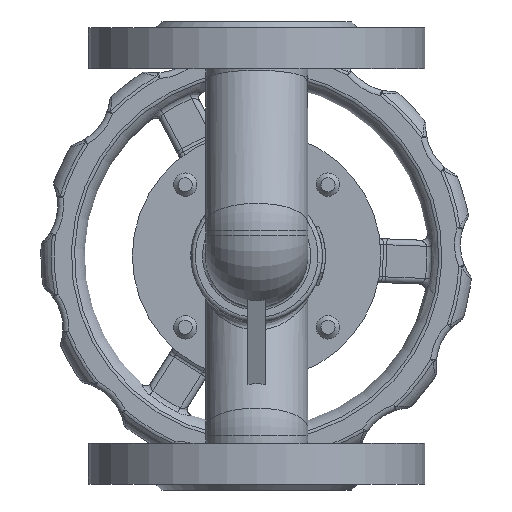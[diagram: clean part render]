
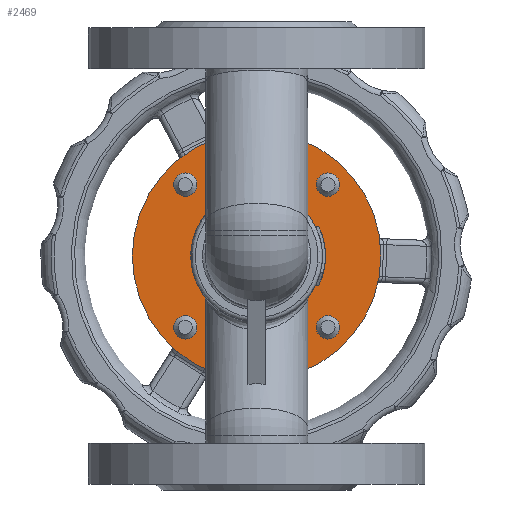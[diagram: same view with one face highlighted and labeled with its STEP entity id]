
A CAD part, front view. The second image highlights one B-rep face of the part: STEP entity #2469.
In plain terms, the highlighted planar face has unit normal (0, -1, 0).
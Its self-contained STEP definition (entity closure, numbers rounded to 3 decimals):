
#2469=ADVANCED_FACE('',(#11172,#11174,#11176,#11178,#11180,#11182),#11184,.T.);
#11172=FACE_BOUND('',#11173,.T.);
#11173=EDGE_LOOP('',(#20042));
#11174=FACE_BOUND('',#11175,.T.);
#11175=EDGE_LOOP('',(#20043));
#11176=FACE_BOUND('',#11177,.T.);
#11177=EDGE_LOOP('',(#20044));
#11178=FACE_BOUND('',#11179,.T.);
#11179=EDGE_LOOP('',(#20045));
#11180=FACE_BOUND('',#11181,.T.);
#11181=EDGE_LOOP('',(#20046));
#11182=FACE_BOUND('',#11183,.T.);
#11183=EDGE_LOOP('',(#20047));
#11184=PLANE('',#11185);
#11185=AXIS2_PLACEMENT_3D('',#11186,#11187,#11188);
#11186=CARTESIAN_POINT('',(0.,57.5,0.));
#11187=DIRECTION('',(0.,-1.,0.));
#11188=DIRECTION('',(0.,0.,1.));
#20042=ORIENTED_EDGE('',*,*,#24317,.F.);
#20043=ORIENTED_EDGE('',*,*,#24392,.T.);
#20044=ORIENTED_EDGE('',*,*,#24393,.T.);
#20045=ORIENTED_EDGE('',*,*,#24394,.T.);
#20046=ORIENTED_EDGE('',*,*,#24395,.T.);
#20047=ORIENTED_EDGE('',*,*,#24396,.T.);
#24317=EDGE_CURVE('',#26975,#26975,#26976,.T.);
#24392=EDGE_CURVE('',#27071,#27071,#27072,.T.);
#24393=EDGE_CURVE('',#27073,#27073,#27074,.T.);
#24394=EDGE_CURVE('',#27075,#27075,#27076,.T.);
#24395=EDGE_CURVE('',#27077,#27077,#27078,.T.);
#24396=EDGE_CURVE('',#27079,#27079,#27080,.T.);
#26975=VERTEX_POINT('',#36016);
#26976=CIRCLE('',#36017,42.5);
#27071=VERTEX_POINT('',#37058);
#27072=CIRCLE('',#37059,20.5);
#27073=VERTEX_POINT('',#37063);
#27074=CIRCLE('',#37064,4.);
#27075=VERTEX_POINT('',#37068);
#27076=CIRCLE('',#37069,4.);
#27077=VERTEX_POINT('',#37073);
#27078=CIRCLE('',#37074,4.);
#27079=VERTEX_POINT('',#37078);
#27080=CIRCLE('',#37079,4.);
#36016=CARTESIAN_POINT('',(0.,57.5,42.5));
#36017=AXIS2_PLACEMENT_3D('',#36018,#36019,#36020);
#36018=CARTESIAN_POINT('',(0.,57.5,0.));
#36019=DIRECTION('',(0.,1.,0.));
#36020=DIRECTION('',(0.,0.,1.));
#37058=CARTESIAN_POINT('',(0.,57.5,20.5));
#37059=AXIS2_PLACEMENT_3D('',#37060,#37061,#37062);
#37060=CARTESIAN_POINT('',(0.,57.5,0.));
#37061=DIRECTION('',(0.,1.,0.));
#37062=DIRECTION('',(0.,0.,1.));
#37063=CARTESIAN_POINT('',(-24.395,57.5,20.395));
#37064=AXIS2_PLACEMENT_3D('',#37065,#37066,#37067);
#37065=CARTESIAN_POINT('',(-24.395,57.5,24.395));
#37066=DIRECTION('',(0.,1.,0.));
#37067=DIRECTION('',(0.,0.,-1.));
#37068=CARTESIAN_POINT('',(-20.395,57.5,-24.395));
#37069=AXIS2_PLACEMENT_3D('',#37070,#37071,#37072);
#37070=CARTESIAN_POINT('',(-24.395,57.5,-24.395));
#37071=DIRECTION('',(0.,1.,0.));
#37072=DIRECTION('',(1.,0.,0.));
#37073=CARTESIAN_POINT('',(24.395,57.5,-20.395));
#37074=AXIS2_PLACEMENT_3D('',#37075,#37076,#37077);
#37075=CARTESIAN_POINT('',(24.395,57.5,-24.395));
#37076=DIRECTION('',(0.,1.,0.));
#37077=DIRECTION('',(0.,0.,1.));
#37078=CARTESIAN_POINT('',(20.395,57.5,24.395));
#37079=AXIS2_PLACEMENT_3D('',#37080,#37081,#37082);
#37080=CARTESIAN_POINT('',(24.395,57.5,24.395));
#37081=DIRECTION('',(0.,1.,0.));
#37082=DIRECTION('',(-1.,0.,0.));
